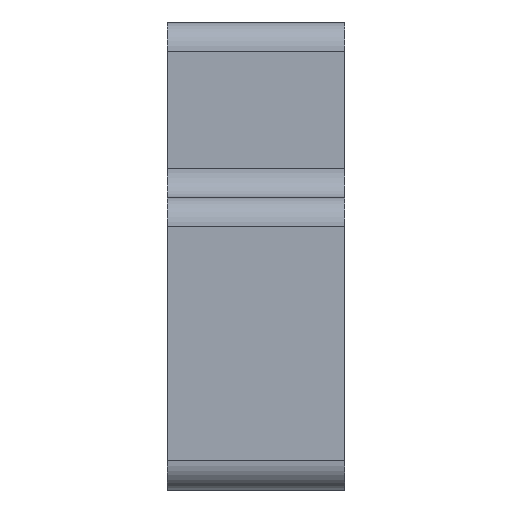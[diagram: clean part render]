
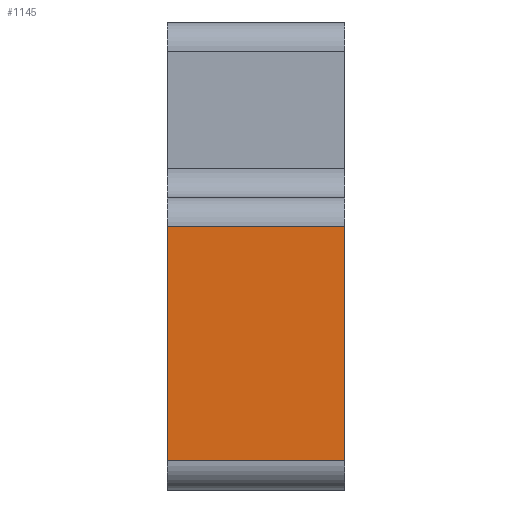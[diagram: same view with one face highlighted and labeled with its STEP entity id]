
A CAD part, left-side view. The second image highlights one B-rep face of the part: STEP entity #1145.
In plain terms, the highlighted planar face has unit normal (-1, 0, 0).
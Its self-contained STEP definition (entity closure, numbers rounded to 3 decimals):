
#119 = ORIENTED_EDGE ( 'NONE', *, *, #2794, .T. ) ;
#327 = EDGE_LOOP ( 'NONE', ( #2298, #119, #2866, #1605 ) ) ;
#331 = EDGE_CURVE ( 'NONE', #2763, #2688, #574, .T. ) ;
#415 = EDGE_CURVE ( 'NONE', #692, #2763, #2648, .T. ) ;
#451 = FACE_OUTER_BOUND ( 'NONE', #327, .T. ) ;
#488 = CARTESIAN_POINT ( 'NONE',  ( -147.24, 12.112, 20. ) ) ;
#542 = DIRECTION ( 'NONE',  ( 0., 0., -1. ) ) ;
#574 = LINE ( 'NONE', #1734, #1051 ) ;
#632 = LINE ( 'NONE', #1955, #2634 ) ;
#692 = VERTEX_POINT ( 'NONE', #1462 ) ;
#725 = DIRECTION ( 'NONE',  ( 0., 0., -1. ) ) ;
#835 = CARTESIAN_POINT ( 'NONE',  ( -147.24, 12.112, 18. ) ) ;
#877 = CARTESIAN_POINT ( 'NONE',  ( -147.24, 0., 18. ) ) ;
#932 = CARTESIAN_POINT ( 'NONE',  ( -147.24, 12.112, 18. ) ) ;
#1051 = VECTOR ( 'NONE', #2877, 1000. ) ;
#1145 = ADVANCED_FACE ( 'NONE', ( #451 ), #2766, .F. ) ;
#1194 = DIRECTION ( 'NONE',  ( 0., 1., 0. ) ) ;
#1215 = LINE ( 'NONE', #932, #1520 ) ;
#1326 = DIRECTION ( 'NONE',  ( 0., -1., 0. ) ) ;
#1462 = CARTESIAN_POINT ( 'NONE',  ( -147.24, 12.112, 2. ) ) ;
#1520 = VECTOR ( 'NONE', #1194, 1000. ) ;
#1584 = EDGE_CURVE ( 'NONE', #1972, #692, #632, .T. ) ;
#1605 = ORIENTED_EDGE ( 'NONE', *, *, #415, .T. ) ;
#1716 = AXIS2_PLACEMENT_3D ( 'NONE', #488, #2086, #725 ) ;
#1734 = CARTESIAN_POINT ( 'NONE',  ( -147.24, 0., 20. ) ) ;
#1955 = CARTESIAN_POINT ( 'NONE',  ( -147.24, 12.112, 20. ) ) ;
#1972 = VERTEX_POINT ( 'NONE', #835 ) ;
#2025 = CARTESIAN_POINT ( 'NONE',  ( -147.24, 0., 2. ) ) ;
#2086 = DIRECTION ( 'NONE',  ( 1., 0., 0. ) ) ;
#2105 = CARTESIAN_POINT ( 'NONE',  ( -147.24, 0., 2. ) ) ;
#2298 = ORIENTED_EDGE ( 'NONE', *, *, #331, .T. ) ;
#2634 = VECTOR ( 'NONE', #542, 1000. ) ;
#2648 = LINE ( 'NONE', #2025, #2782 ) ;
#2688 = VERTEX_POINT ( 'NONE', #877 ) ;
#2763 = VERTEX_POINT ( 'NONE', #2105 ) ;
#2766 = PLANE ( 'NONE',  #1716 ) ;
#2782 = VECTOR ( 'NONE', #1326, 1000. ) ;
#2794 = EDGE_CURVE ( 'NONE', #2688, #1972, #1215, .T. ) ;
#2866 = ORIENTED_EDGE ( 'NONE', *, *, #1584, .T. ) ;
#2877 = DIRECTION ( 'NONE',  ( 0., 0., 1. ) ) ;
